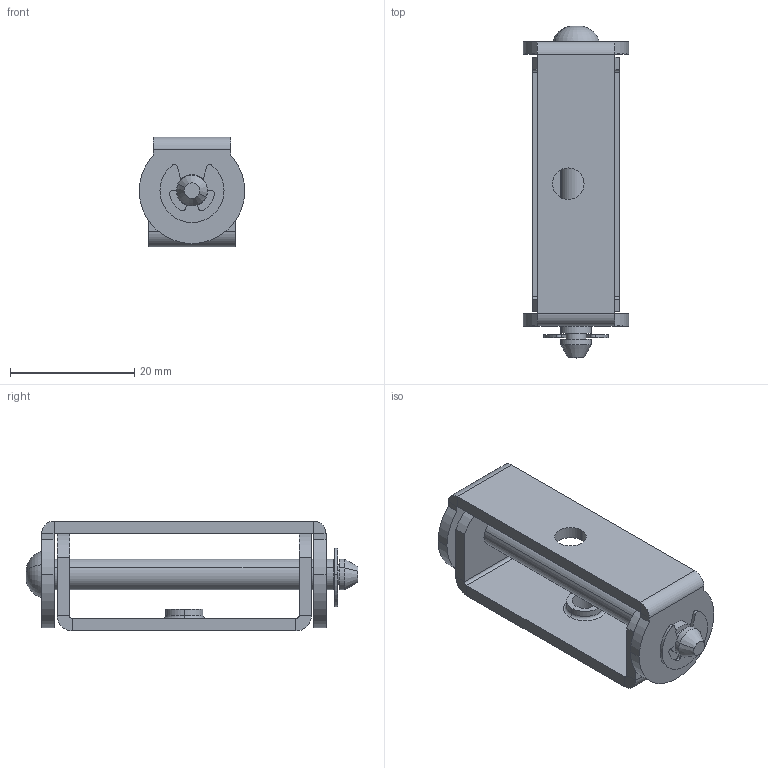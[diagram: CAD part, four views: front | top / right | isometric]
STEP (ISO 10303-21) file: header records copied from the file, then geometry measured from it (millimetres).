
FILE_DESCRIPTION (( 'STEP AP214' ), '1' );
FILE_NAME ('3.ST15.001.STEP', '2010-03-01T18:34:39', ( 'Piotr Zieliñski' ), ( 'Roztocze Z.U.P.' ), 'SwSTEP 2.0', 'SolidWorks 2004231', '' );
FILE_SCHEMA (( 'AUTOMOTIVE_DESIGN' ));
Length unit declared in the file: millimetre
Products named in the file (5): 3B.ST15.00.00.03_Domyœlna; 3B.St15.00.00.01_Gwint M5; 3B.St15.00.00.02_Domyœlna; 3.ST15.001; P³ytka osadcza Fi4_Domyœlna
Assembly tree (4 placements, depth 2):
  3.ST15.001
    3B.St15.00.00.01_Gwint M5
    3B.St15.00.00.02_Domyœlna
    3B.ST15.00.00.03_Domyœlna
    P³ytka osadcza Fi4_Domyœlna
Bounding box: 17 x 53.51 x 17.73 mm (x, y, z)
Volume: 4666.2 mm3; surface area: 5485.5 mm2
Topology: 4 solids, 4 shells, 109 faces, 256 edges, 157 vertices
Faces by surface type: cylinder 56, plane 45, torus 6, cone 2
Entity records: 3296 total; most frequent: DIRECTION 612, CARTESIAN_POINT 527, ORIENTED_EDGE 508, EDGE_CURVE 254, AXIS2_PLACEMENT_3D 242, VERTEX_POINT 157, VECTOR 128, LINE 128
